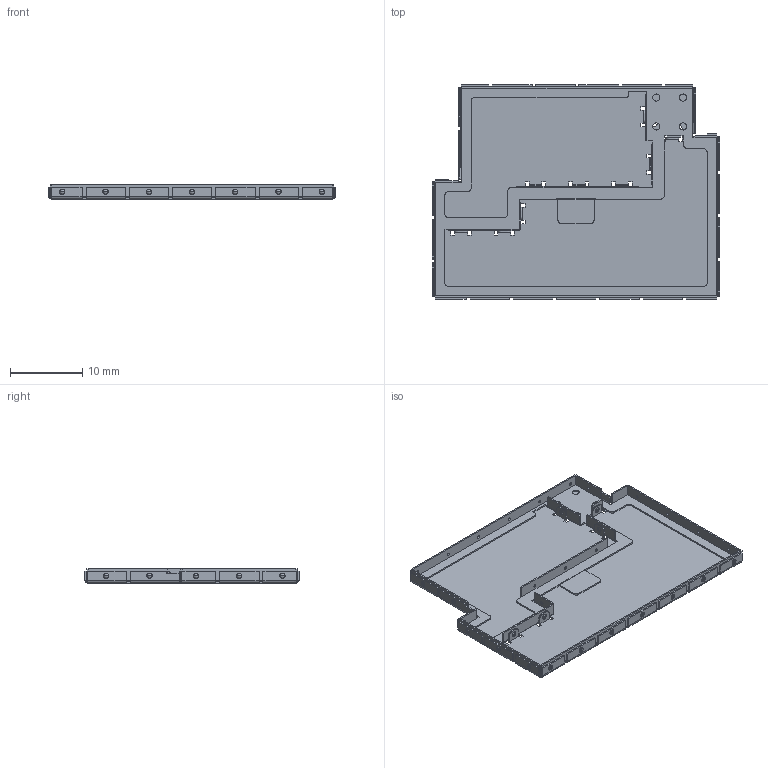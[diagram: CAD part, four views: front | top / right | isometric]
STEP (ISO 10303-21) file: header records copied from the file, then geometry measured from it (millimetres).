
FILE_DESCRIPTION((''),'2;1');
FILE_NAME('GTC01-A-MCS01-RF_ASM','2008-06-30T',('GRA'),(''),'PRO/ENGINEER BY PARAMETRIC TECHNOLOGY CORPORATION, 2006170','PRO/ENGINEER BY PARAMETRIC TECHNOLOGY CORPORATION, 2006170','');
FILE_SCHEMA(('CONFIG_CONTROL_DESIGN'));
Length unit declared in the file: millimetre
Products named in the file (3): GTC01-A-MCS01-RF-FRAME_PRT; GTC01-A-MCS02-RF-COVER_PRT; GTC01-A-MCS01-RF_ASM
Assembly tree (2 placements, depth 2):
  GTC01-A-MCS01-RF_ASM
    GTC01-A-MCS01-RF-FRAME_PRT
    GTC01-A-MCS02-RF-COVER_PRT
Bounding box: 39.9 x 29.7 x 1.95 mm (x, y, z)
Volume: 361 mm3; surface area: 3776 mm2
Topology: 2 solids, 2 shells, 855 faces, 2167 edges, 1250 vertices
Faces by surface type: plane 526, cylinder 197, sphere 132
Entity records: 24675 total; most frequent: DIRECTION 4425, CARTESIAN_POINT 4145, ORIENTED_EDGE 4070, EDGE_CURVE 2035, AXIS2_PLACEMENT_3D 1530, VECTOR 1365, LINE 1365, VERTEX_POINT 1250
